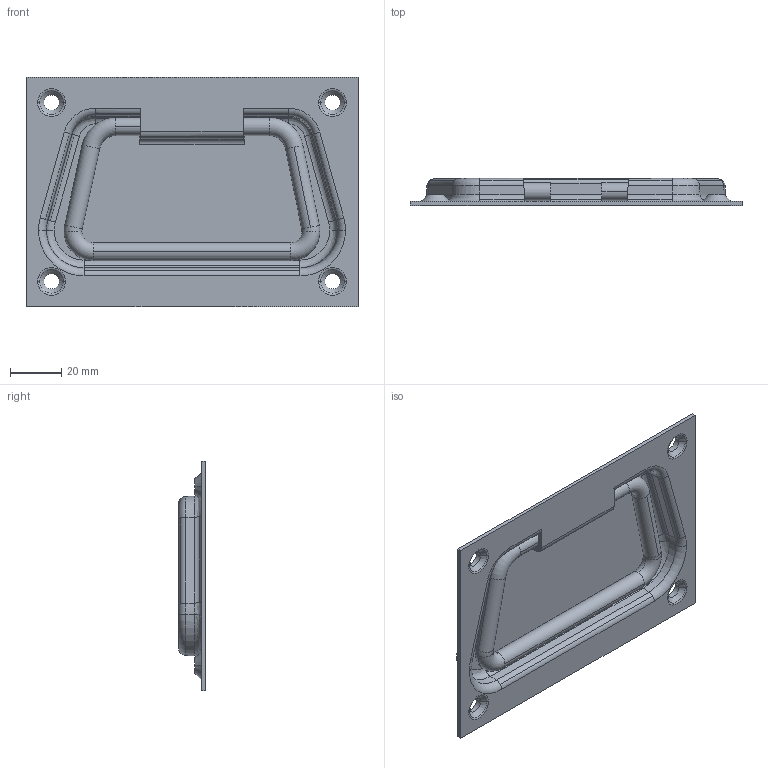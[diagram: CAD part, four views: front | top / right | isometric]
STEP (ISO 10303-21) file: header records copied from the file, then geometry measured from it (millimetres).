
FILE_DESCRIPTION((''),'2;1');
FILE_NAME('2135.stp','2010-11-17T09:34:04',(''),(''),'Mechanical Desktop 2006','Mechanical Desktop 2006',', , ');
FILE_SCHEMA(('CONFIG_CONTROL_DESIGN'));
Length unit declared in the file: millimetre
Products named in the file (3): 2135; ~TEIL1; ~TEIL2
Assembly tree (2 placements, depth 2):
  2135
    ~TEIL1
    ~TEIL2
Bounding box: 130 x 10.5 x 90 mm (x, y, z)
Volume: 30662.9 mm3; surface area: 33537 mm2
Topology: 2 solids, 2 shells, 164 faces, 415 edges, 251 vertices
Faces by surface type: cylinder 66, torus 32, cone 28, plane 26, bspline 12
Entity records: 5387 total; most frequent: CARTESIAN_POINT 1147, DIRECTION 978, ORIENTED_EDGE 830, EDGE_CURVE 415, AXIS2_PLACEMENT_3D 410, VERTEX_POINT 251, CIRCLE 219, EDGE_LOOP 172
